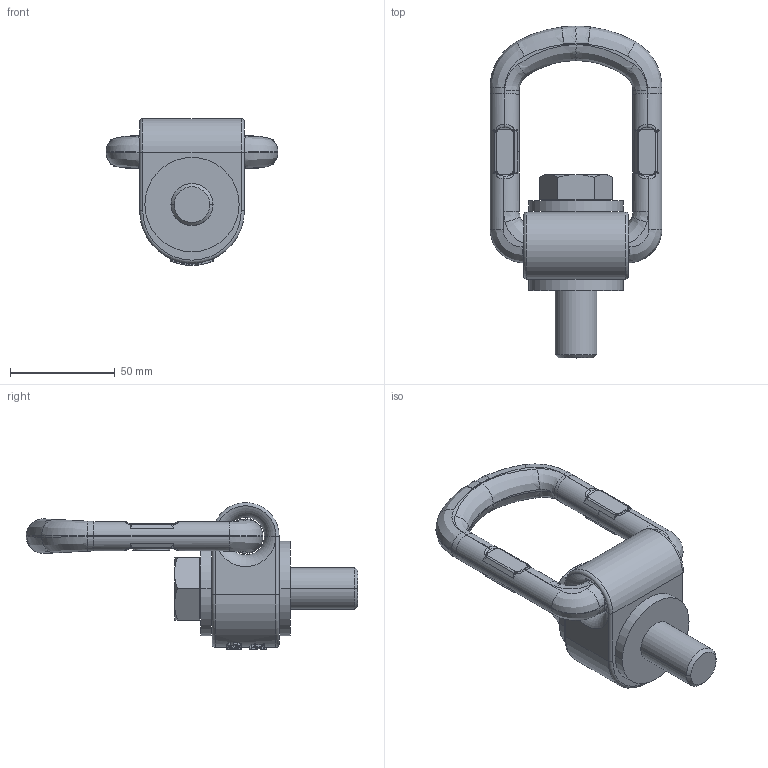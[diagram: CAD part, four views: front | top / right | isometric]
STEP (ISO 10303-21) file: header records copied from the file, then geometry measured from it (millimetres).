
FILE_DESCRIPTION((''),'2;1');
FILE_NAME('001-M31215-P-1_ASM','2016-07-01T',('Andreas.Wendler'),(''),'PRO/ENGINEER BY PARAMETRIC TECHNOLOGY CORPORATION, 2011490','PRO/ENGINEER BY PARAMETRIC TECHNOLOGY CORPORATION, 2011490','');
FILE_SCHEMA(('CONFIG_CONTROL_DESIGN'));
Length unit declared in the file: millimetre
Products named in the file (5): 001-M31215-RT1; 001-M31215-RT2; 001-M31215-BA1; 001-M31121-P-1; 001-M31215-P-1_ASM
Assembly tree (4 placements, depth 2):
  001-M31215-P-1_ASM
    001-M31215-RT1
    001-M31215-RT2
    001-M31215-BA1
    001-M31121-P-1
Bounding box: 82 x 158.35 x 70 mm (x, y, z)
Volume: 171978.8 mm3; surface area: 49433 mm2
Topology: 4 solids, 4 shells, 868 faces, 2250 edges, 1420 vertices
Faces by surface type: plane 518, bspline 128, cylinder 102, extrusion 52, torus 44, sphere 16, cone 8
Entity records: 33226 total; most frequent: CARTESIAN_POINT 13414, ORIENTED_EDGE 4500, DIRECTION 3428, EDGE_CURVE 2250, VERTEX_POINT 1420, VECTOR 1330, LINE 1278, AXIS2_PLACEMENT_3D 1049
